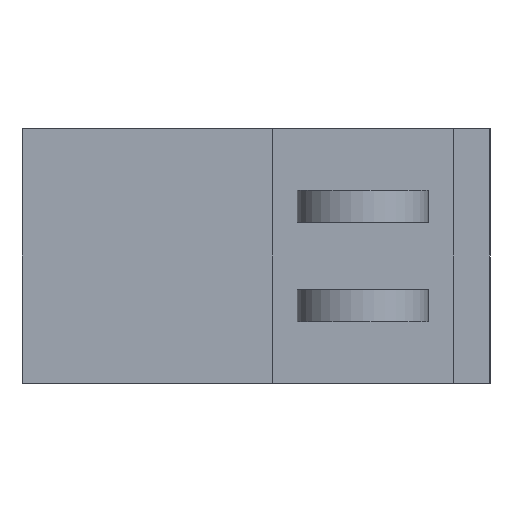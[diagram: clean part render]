
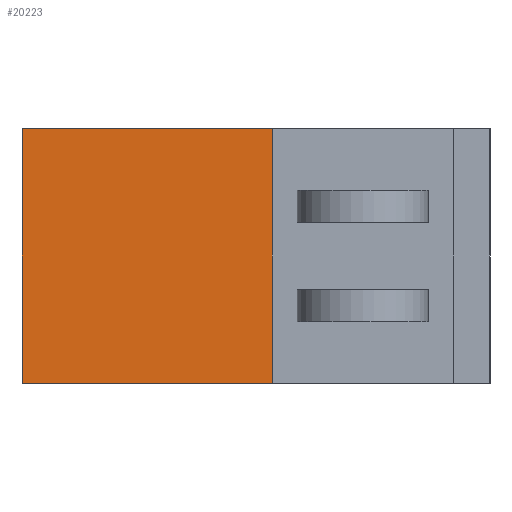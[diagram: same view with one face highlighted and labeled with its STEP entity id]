
A CAD part, left-side view. The second image highlights one B-rep face of the part: STEP entity #20223.
In plain terms, the highlighted planar face has unit normal (-1, 0, 0).
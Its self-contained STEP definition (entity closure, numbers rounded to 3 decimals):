
#907 = LINE ( 'NONE', #5859, #5388 ) ;
#974 = ORIENTED_EDGE ( 'NONE', *, *, #11165, .T. ) ;
#1415 = VECTOR ( 'NONE', #16300, 1000. ) ;
#1429 = CARTESIAN_POINT ( 'NONE',  ( -315., 110., -155. ) ) ;
#3515 = DIRECTION ( 'NONE',  ( 0., 0., 1. ) ) ;
#4060 = EDGE_CURVE ( 'NONE', #10584, #6484, #907, .T. ) ;
#5152 = ORIENTED_EDGE ( 'NONE', *, *, #19688, .F. ) ;
#5388 = VECTOR ( 'NONE', #9664, 1000. ) ;
#5859 = CARTESIAN_POINT ( 'NONE',  ( -315., 415., -155. ) ) ;
#6484 = VERTEX_POINT ( 'NONE', #21046 ) ;
#6584 = VERTEX_POINT ( 'NONE', #7089 ) ;
#7089 = CARTESIAN_POINT ( 'NONE',  ( -315., 110., -155. ) ) ;
#7629 = VECTOR ( 'NONE', #8906, 1000. ) ;
#8333 = VERTEX_POINT ( 'NONE', #17008 ) ;
#8745 = PLANE ( 'NONE',  #16069 ) ;
#8906 = DIRECTION ( 'NONE',  ( 0., -1., 0. ) ) ;
#9534 = VECTOR ( 'NONE', #17431, 1000. ) ;
#9664 = DIRECTION ( 'NONE',  ( 0., 0., -1. ) ) ;
#10584 = VERTEX_POINT ( 'NONE', #21946 ) ;
#11165 = EDGE_CURVE ( 'NONE', #8333, #10584, #21135, .T. ) ;
#11656 = EDGE_LOOP ( 'NONE', ( #5152, #974, #20168, #18061 ) ) ;
#12344 = LINE ( 'NONE', #12588, #7629 ) ;
#12588 = CARTESIAN_POINT ( 'NONE',  ( -315., 415., -155. ) ) ;
#14141 = DIRECTION ( 'NONE',  ( -1., 0., 0. ) ) ;
#14235 = LINE ( 'NONE', #1429, #9534 ) ;
#15327 = FACE_OUTER_BOUND ( 'NONE', #11656, .T. ) ;
#16069 = AXIS2_PLACEMENT_3D ( 'NONE', #21124, #14141, #3515 ) ;
#16300 = DIRECTION ( 'NONE',  ( 0., 1., 0. ) ) ;
#17008 = CARTESIAN_POINT ( 'NONE',  ( -315., 110., 155. ) ) ;
#17431 = DIRECTION ( 'NONE',  ( 0., 0., -1. ) ) ;
#18061 = ORIENTED_EDGE ( 'NONE', *, *, #18622, .T. ) ;
#18219 = CARTESIAN_POINT ( 'NONE',  ( -315., 415., 155. ) ) ;
#18622 = EDGE_CURVE ( 'NONE', #6484, #6584, #12344, .T. ) ;
#19688 = EDGE_CURVE ( 'NONE', #8333, #6584, #14235, .T. ) ;
#20168 = ORIENTED_EDGE ( 'NONE', *, *, #4060, .T. ) ;
#20223 = ADVANCED_FACE ( 'NONE', ( #15327 ), #8745, .T. ) ;
#21046 = CARTESIAN_POINT ( 'NONE',  ( -315., 415., -155. ) ) ;
#21124 = CARTESIAN_POINT ( 'NONE',  ( -315., 0., 0. ) ) ;
#21135 = LINE ( 'NONE', #18219, #1415 ) ;
#21946 = CARTESIAN_POINT ( 'NONE',  ( -315., 415., 155. ) ) ;
